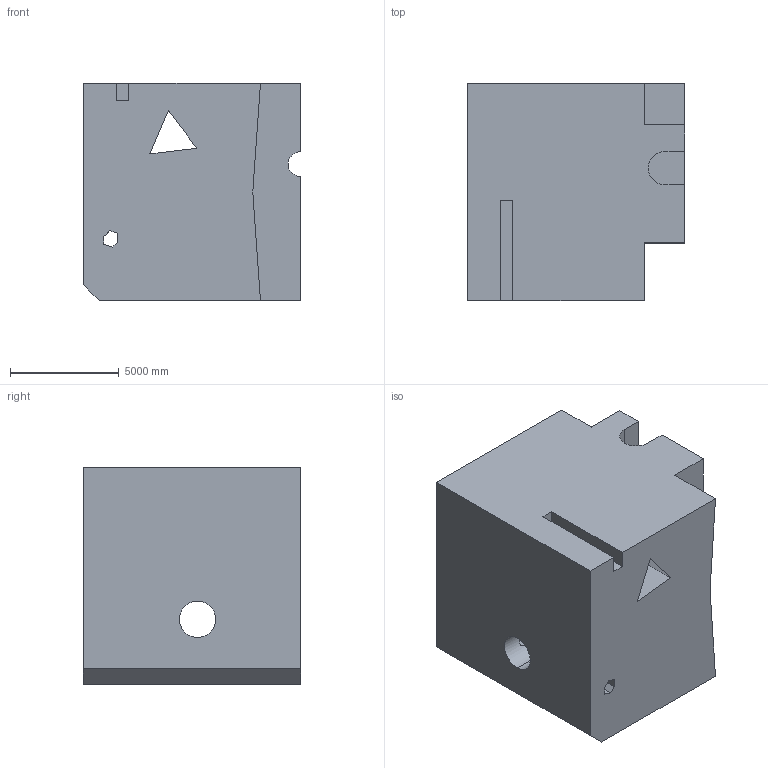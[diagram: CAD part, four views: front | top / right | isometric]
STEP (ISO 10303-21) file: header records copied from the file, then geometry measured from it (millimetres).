
FILE_DESCRIPTION (( 'STEP AP203' ), '1' );
FILE_NAME ('194.STEP', '2022-09-06T13:40:22', ( 'user' ), ( '' ), 'SwSTEP 2.0', 'SolidWorks 2021', '' );
FILE_SCHEMA (( 'CONFIG_CONTROL_DESIGN' ));
Length unit declared in the file: centimetre
Products named in the file (1): 194
Bounding box: 10000 x 10000 x 10000 mm (x, y, z)
Volume: 854693865932.5 mm3; surface area: 749029568 mm2
Topology: 1 solids, 1 shells, 47 faces, 132 edges, 88 vertices
Faces by surface type: plane 43, cylinder 4
Entity records: 1591 total; most frequent: CARTESIAN_POINT 292, ORIENTED_EDGE 264, DIRECTION 232, EDGE_CURVE 132, LINE 112, VECTOR 112, VERTEX_POINT 88, AXIS2_PLACEMENT_3D 60
